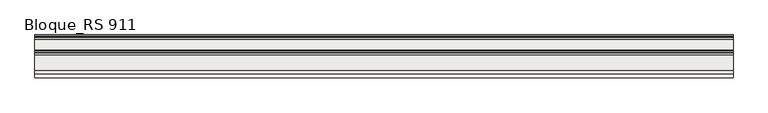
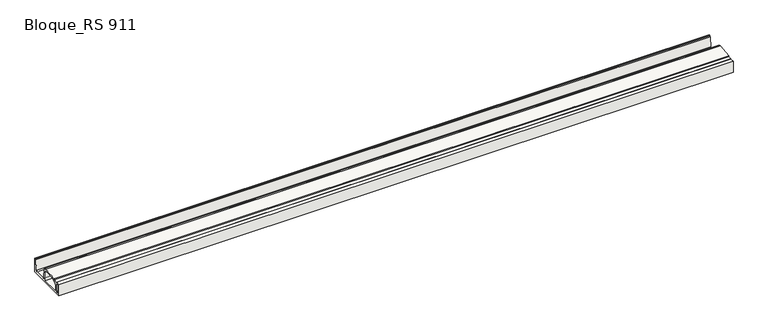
"""IFC4 building model written with IfcOpenShell, lengths in millimetres: slab geometry, ROSA GRES_RS 911 : Bloque_RS 911."""

from ifc_helpers import new_model, si_unit, point, frame, frame_2d, origin, place, context, project, spatial, polyline, circle_curve, trimmed, segment, composite_curve, outline, extrude, source, transform, mapped, element, save


def bloque_rs_911_71783845(model_context):
    return source(origin(), model_context, "Body", "SweptSolid", [
        extrude(outline(composite_curve([segment(polyline([(12.836227, 1.7539108), (12.836227, 171.9333029), (67.836227, 176.4100471), (67.836227, 173.8170239), (72.836227, 173.8170239), (72.836227, 176.8170239), (125.1172881, 181.0724591), (123.836227, 196.8112099), (343.836227, 214.7181867), (343.836227, 216.3460936), (363.836227, 216.3460936), (363.836227, 206.3460936), (381.836227, 206.3460936), (393.5484732, 55.2086635)]), True, "CONTINUOUS"), segment(trimmed(circle_curve(frame_2d((413.4886891, 56.7539108)), 20.0), [point((393.5484732, 55.2086635))], [point((413.4886891, 36.7539108))], True, "CARTESIAN"), True, "CONTINUOUS"), segment(polyline([(413.4886891, 36.7539108), (567.1837649, 36.7539108)]), True, "CONTINUOUS"), segment(trimmed(circle_curve(frame_2d((567.1837649, 56.7539108)), 20.0), [point((567.1837649, 36.7539108))], [point((587.1239808, 55.2086635))], True, "CARTESIAN"), True, "CONTINUOUS"), segment(polyline([(587.1239808, 55.2086635), (598.836227, 206.3460936), (616.836227, 206.3460936), (616.836227, 216.3460936), (626.836227, 216.3460936), (626.836227, 1.7539108), (12.836227, 1.7539108)]), True, "CONTINUOUS")], self_intersect=False), holes=[composite_curve([segment(trimmed(circle_curve(frame_2d((59.836227, 140.6431347)), 8.0), [point((67.836227, 140.6431347))], [point((59.1872106, 148.6167648))], True, "CARTESIAN"), True, "CONTINUOUS"), segment(polyline([(59.1872106, 148.6167648), (47.1872106, 147.6400206)]), True, "CONTINUOUS"), segment(trimmed(circle_curve(frame_2d((47.836227, 139.6663905)), 8.0), [point((47.1872106, 147.6400206))], [point((39.836227, 139.6663905))], True, "CARTESIAN"), True, "CONTINUOUS"), segment(polyline([(39.836227, 139.6663905), (39.836227, 36.7539108)]), True, "CONTINUOUS"), segment(trimmed(circle_curve(frame_2d((47.836227, 36.7539108)), 8.0), [point((39.836227, 36.7539108))], [point((47.836227, 28.7539108))], True, "CARTESIAN"), True, "CONTINUOUS"), segment(polyline([(47.836227, 28.7539108), (59.836227, 28.7539108)]), True, "CONTINUOUS"), segment(trimmed(circle_curve(frame_2d((59.836227, 36.7539108)), 8.0), [point((59.836227, 28.7539108))], [point((67.836227, 36.7539108))], True, "CARTESIAN"), True, "CONTINUOUS"), segment(polyline([(67.836227, 36.7539108), (67.836227, 140.6431347)]), True, "CONTINUOUS")], self_intersect=False), composite_curve([segment(trimmed(circle_curve(frame_2d((187.3063127, 84.534333)), 85.0), [point((180.4105134, 169.2541533))], [point((102.3063127, 84.534333))], True, "CARTESIAN"), True, "CONTINUOUS"), segment(polyline([(102.3063127, 84.534333), (102.3063127, 28.7539108), (356.3063127, 28.7539108), (356.3063127, 161.8772036)]), True, "CONTINUOUS"), segment(trimmed(circle_curve(frame_2d((336.3063127, 161.8772036)), 20.0), [point((356.3063127, 161.8772036))], [point((334.6837717, 181.811279))], True, "CARTESIAN"), True, "CONTINUOUS"), segment(polyline([(334.6837717, 181.811279), (180.4105134, 169.2541533)]), True, "CONTINUOUS")], self_intersect=False)]), frame((0.0, 0.0, 0.0), z_axis=(1.0, 0.0, 0.0), x_axis=(0.0, 1.0, 0.0)), (0.0, 0.0, 1.0), 10002.75),
    ])


if __name__ == "__main__":
    model = new_model("IFC4")
    model_context = context("Model", 3, world=origin())
    ifc_project = project(units=[si_unit("LENGTHUNIT", "METRE", prefix="MILLI")], contexts=[model_context])
    site = spatial("IfcSite", under=ifc_project)
    building = spatial("IfcBuilding", under=site)
    placement = place(None, origin())
    bloque_rs_911_shape = bloque_rs_911_71783845(model_context)
    element("IfcSlab", 1, ObjectType="ROSA GRES_RS 911 : Bloque_RS 911", at=placement, inside=building, context=model_context, shape_type="MappedRepresentation", body=[
        mapped(bloque_rs_911_shape, transform((0.0, 0.0, 0.0), x_axis=(1.0, 0.0, 0.0), y_axis=(0.0, 1.0, 0.0), z_axis=(0.0, 0.0, 1.0))),
    ])
    save(model, "model.ifc")
